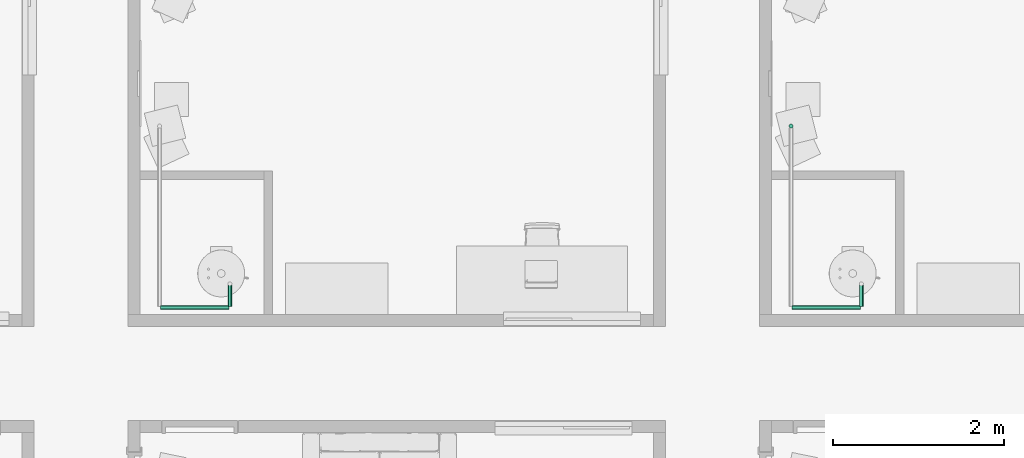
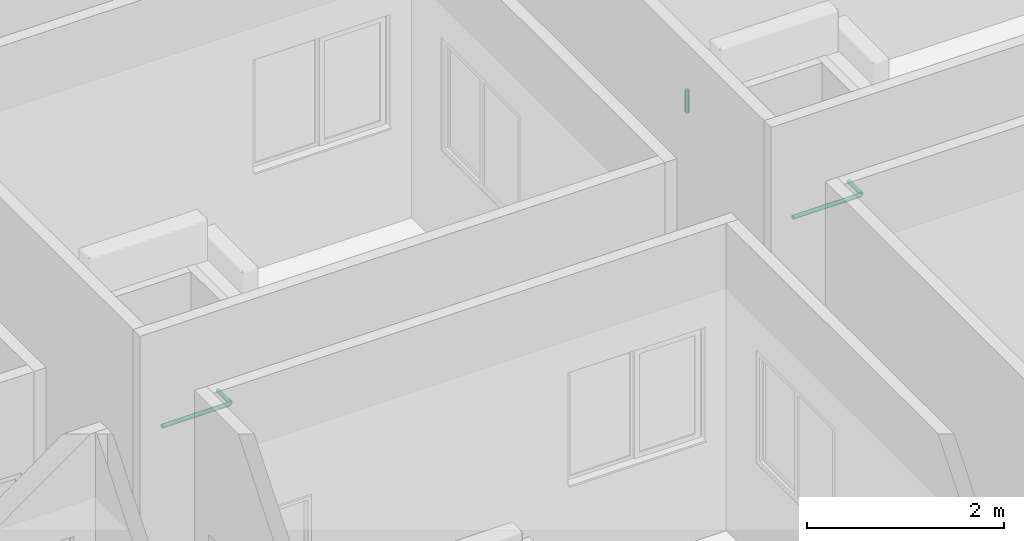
# One storey, part 54 of 72: 5 pipe segments.
"""IFC4 building model written with IfcOpenShell, lengths in centimetres."""

from ifc_helpers import new_model, entity, si_unit, converted_unit, derived_unit, direction, frame, origin, place, context, subcontext, project, spatial, arc, indexed_curve, outline, extrude, type_object, element, save


model = new_model("IFC4")

# Units and contexts
model_context = context("Model", 3, precision=0.001, world=origin(), true_north=direction((6.123233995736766e-17, 1.0)))
body_context = subcontext(model_context, "Body", "Model", "MODEL_VIEW")
ifc_project = project(units=[si_unit("LENGTHUNIT", "METRE", prefix="CENTI"), si_unit("AREAUNIT", "SQUARE_METRE"), si_unit("VOLUMEUNIT", "CUBIC_METRE"), derived_unit("THERMALTRANSMITTANCEUNIT", [(si_unit("MASSUNIT", "GRAM", prefix="KILO"), 1), (si_unit("THERMODYNAMICTEMPERATUREUNIT", "KELVIN"), -1), (si_unit("TIMEUNIT", "SECOND"), -3)]), converted_unit("PLANEANGLEUNIT", "DEGREE", entity("IfcPlaneAngleMeasure", 0.017453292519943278), si_unit("PLANEANGLEUNIT", "RADIAN"), dimensions=[0, 0, 0, 0, 0, 0, 0]), derived_unit("MASSDENSITYUNIT", [(si_unit("MASSUNIT", "GRAM", prefix="KILO"), 1), (si_unit("LENGTHUNIT", "METRE"), -3)]), derived_unit("VAPORPERMEABILITYUNIT", [(si_unit("LENGTHUNIT", "METRE"), -1), (si_unit("TIMEUNIT", "SECOND"), 1)]), derived_unit("USERDEFINED", [(si_unit("MASSUNIT", "GRAM", prefix="KILO"), 1), (si_unit("TIMEUNIT", "SECOND"), -3), (si_unit("LENGTHUNIT", "METRE"), 3), (si_unit("ELECTRICCURRENTUNIT", "AMPERE"), -2)]), derived_unit("SPECIFICHEATCAPACITYUNIT", [(si_unit("THERMODYNAMICTEMPERATUREUNIT", "KELVIN"), -1), (si_unit("LENGTHUNIT", "METRE"), 2), (si_unit("TIMEUNIT", "SECOND"), -2)]), derived_unit("THERMALCONDUCTANCEUNIT", [(si_unit("MASSUNIT", "GRAM", prefix="KILO"), 1), (si_unit("THERMODYNAMICTEMPERATUREUNIT", "KELVIN"), -1), (si_unit("TIMEUNIT", "SECOND"), -3), (si_unit("LENGTHUNIT", "METRE"), 1)]), si_unit("PRESSUREUNIT", "PASCAL"), derived_unit("MODULUSOFELASTICITYUNIT", [(si_unit("MASSUNIT", "GRAM", prefix="KILO"), 1), (si_unit("LENGTHUNIT", "METRE"), -1), (si_unit("TIMEUNIT", "SECOND"), -2)]), derived_unit("THERMALEXPANSIONCOEFFICIENTUNIT", [(si_unit("THERMODYNAMICTEMPERATUREUNIT", "KELVIN"), -1)])], contexts=[model_context])

# Site, building, storey
site_placement = place(None, origin())
site = spatial("IfcSite", under=ifc_project, at=site_placement, Name="Default", CompositionType="ELEMENT")
building_placement = place(site_placement, origin())
building = spatial("IfcBuilding", under=site, at=building_placement, Name="IDS Escape Game Building", CompositionType="ELEMENT")
storey_placement = place(building_placement, frame((0.0, 0.0, 800.0)))
storey = spatial("IfcBuildingStorey", under=building, at=storey_placement, Name="02_Second Floor", CompositionType="ELEMENT", Elevation=800.0)

# Pipe segments
pipe_segment_type = type_object("IfcPipeSegmentType", Name="Pipe Types:Piping Aluminum", PredefinedType="NOTDEFINED")
pipe_segment_1_placement = place(storey_placement, origin())
element("IfcPipeSegment", 1, at=pipe_segment_1_placement, inside=storey, type_object=pipe_segment_type, Name="Pipe Types:Piping Aluminum", ObjectType="Pipe Types:Piping Aluminum", PredefinedType="NOTDEFINED", context=body_context, shape_type="SweptSolid", body=[
    extrude(outline(indexed_curve([(2.412999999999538, -2.165734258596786e-13), (1.7062486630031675, 1.7062486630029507), (4.331468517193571e-13, 2.4130000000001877), (-1.7062486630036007, 1.7062486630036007), (-2.4130000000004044, -2.165734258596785e-13), (-1.7062486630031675, -1.706248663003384), (4.3314685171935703e-13, -2.4129999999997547), (1.7062486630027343, -1.7062486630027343)], segments=[arc(1, 2, 3), arc(3, 4, 5), arc(5, 6, 7), arc(7, 8, 1)], self_intersect=False)), frame((3721.1467168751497, 2573.2648279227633, 242.0), z_axis=(1.0, 0.0, 0.0), x_axis=(0.0, 1.0, 0.0)), (0.0, 0.0, 1.0), 79.90328312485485),
])
pipe_segment_2_placement = place(storey_placement, origin())
element("IfcPipeSegment", 2, at=pipe_segment_2_placement, inside=storey, type_object=pipe_segment_type, Name="Pipe Types:Piping Aluminum", ObjectType="Pipe Types:Piping Aluminum", PredefinedType="NOTDEFINED", context=body_context, shape_type="SweptSolid", body=[
    extrude(outline(indexed_curve([(2.4129999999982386, 0.0), (1.706248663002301, 1.7062486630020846), (1.2994405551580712e-12, 2.412999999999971), (-1.7062486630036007, 1.7062486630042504), (-2.413000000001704, 0.0), (-1.7062486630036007, -1.7062486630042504), (1.2994405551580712e-12, -2.412999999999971), (1.706248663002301, -1.7062486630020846)], segments=[arc(1, 2, 3), arc(3, 4, 5), arc(5, 6, 7), arc(7, 8, 1)], self_intersect=False)), frame((3802.150000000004, 2574.364827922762, 242.0), z_axis=(0.0, 1.0, 0.0), x_axis=(-1.0, 0.0, 0.0)), (0.0, 0.0, 1.0), 25.43517207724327),
])
pipe_segment_3_placement = place(storey_placement, origin())
element("IfcPipeSegment", 3, at=pipe_segment_3_placement, inside=storey, type_object=pipe_segment_type, Name="Pipe Types:Piping Aluminum", ObjectType="Pipe Types:Piping Aluminum", PredefinedType="NOTDEFINED", context=body_context, shape_type="SweptSolid", body=[
    extrude(outline(indexed_curve([(2.412999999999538, -2.165734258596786e-13), (1.7062486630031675, 1.7062486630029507), (4.331468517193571e-13, 2.4130000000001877), (-1.7062486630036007, 1.7062486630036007), (-2.4130000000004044, -2.165734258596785e-13), (-1.7062486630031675, -1.706248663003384), (4.3314685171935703e-13, -2.4129999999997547), (1.7062486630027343, -1.7062486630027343)], segments=[arc(1, 2, 3), arc(3, 4, 5), arc(5, 6, 7), arc(7, 8, 1)], self_intersect=False)), frame((4459.146716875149, 2573.2648279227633, 242.0), z_axis=(1.0, 0.0, 0.0), x_axis=(0.0, 1.0, 0.0)), (0.0, 0.0, 1.0), 79.90328312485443),
])
pipe_segment_4_placement = place(storey_placement, origin())
element("IfcPipeSegment", 4, at=pipe_segment_4_placement, inside=storey, type_object=pipe_segment_type, Name="Pipe Types:Piping Aluminum", ObjectType="Pipe Types:Piping Aluminum", PredefinedType="NOTDEFINED", context=body_context, shape_type="SweptSolid", body=[
    extrude(outline(indexed_curve([(2.412999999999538, 0.0), (1.7062486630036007, 1.706248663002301), (1.7325874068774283e-12, 2.412999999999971), (-1.7062486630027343, 1.7062486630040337), (-2.413000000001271, 0.0), (-1.7062486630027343, -1.7062486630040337), (1.7325874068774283e-12, -2.412999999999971), (1.7062486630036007, -1.706248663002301)], segments=[arc(1, 2, 3), arc(3, 4, 5), arc(5, 6, 7), arc(7, 8, 1)], self_intersect=False)), frame((4540.150000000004, 2574.364827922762, 242.0), z_axis=(0.0, 1.0, 0.0), x_axis=(-1.0, 0.0, 0.0)), (0.0, 0.0, 1.0), 25.43517207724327),
])
pipe_segment_5_placement = place(storey_placement, origin())
element("IfcPipeSegment", 5, at=pipe_segment_5_placement, inside=storey, type_object=pipe_segment_type, Name="Pipe Types:Piping Aluminum", ObjectType="Pipe Types:Piping Aluminum", PredefinedType="NOTDEFINED", context=body_context, shape_type="SweptSolid", body=[
    extrude(outline(indexed_curve([(2.4130000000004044, -4.331468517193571e-13), (1.7062486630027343, 1.7062486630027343), (0.0, 2.412999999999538), (-1.7062486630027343, 1.7062486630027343), (-2.4130000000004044, -4.331468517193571e-13), (-1.7062486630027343, -1.7062486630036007), (0.0, -2.4130000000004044), (1.7062486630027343, -1.7062486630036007)], segments=[arc(1, 2, 3), arc(3, 4, 5), arc(5, 6, 7), arc(7, 8, 1)], self_intersect=False)), frame((4458.046716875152, 2785.2648279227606, 244.09999999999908), z_axis=(0.0, 0.0, 1.0), x_axis=(-1.0, 0.0, 0.0)), (0.0, 0.0, 1.0), 27.90000000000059),
])

save(model, "model.ifc")
